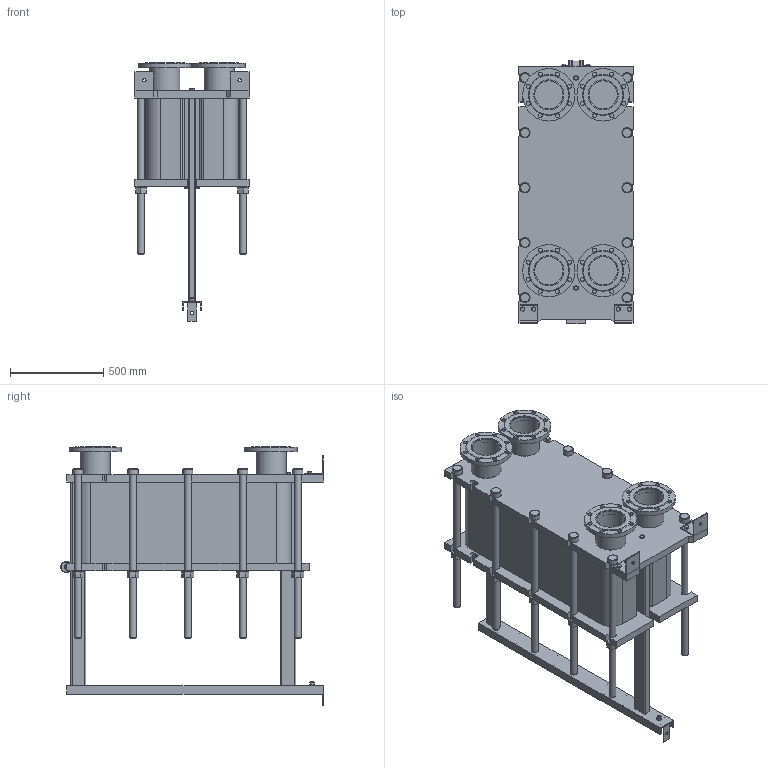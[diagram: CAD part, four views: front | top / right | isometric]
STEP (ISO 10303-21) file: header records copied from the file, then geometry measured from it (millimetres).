
FILE_DESCRIPTION(/* description */ (''),/* implementation_level */ '2;1');
FILE_NAME(/* name */ 'C:\Users\zhuro\Desktop\ENCO\TO\ЭН-041\ЭН-0,5-041-126-1.stp',/* time_stamp */ '2022-06-06T11:00:02+03:00',/* author */ ('zhuro'),/* organization */ (''),/* preprocessor_version */ 'ST-DEVELOPER v18.1',/* originating_system */ 'Autodesk Inventor 2022',/* authorisation */ '');
FILE_SCHEMA (('AUTOMOTIVE_DESIGN { 1 0 10303 214 3 1 1 }'));
Length unit declared in the file: millimetre
Products named in the file (1): ЭН-0,5-041-126-1
Bounding box: 610 x 1406.5 x 1385 mm (x, y, z)
Volume: 326791723.5 mm3; surface area: 9597789.8 mm2
Topology: 52 solids, 52 shells, 711 faces, 1696 edges, 1094 vertices
Faces by surface type: plane 487, cylinder 177, cone 41, torus 6
Full cylindrical faces by diameter (mm): 8 x4, 10 x2, 16 x8, 18 x3, 22 x32, 36 x24, 50 x1, 54 x10, 60 x12, 151 x4, 161 x8, 280 x4
Entity records: 22667 total; most frequent: CARTESIAN_POINT 5230, DIRECTION 3644, ORIENTED_EDGE 3392, EDGE_CURVE 1696, AXIS2_PLACEMENT_3D 1272, LINE 1100, VECTOR 1100, VERTEX_POINT 1094
